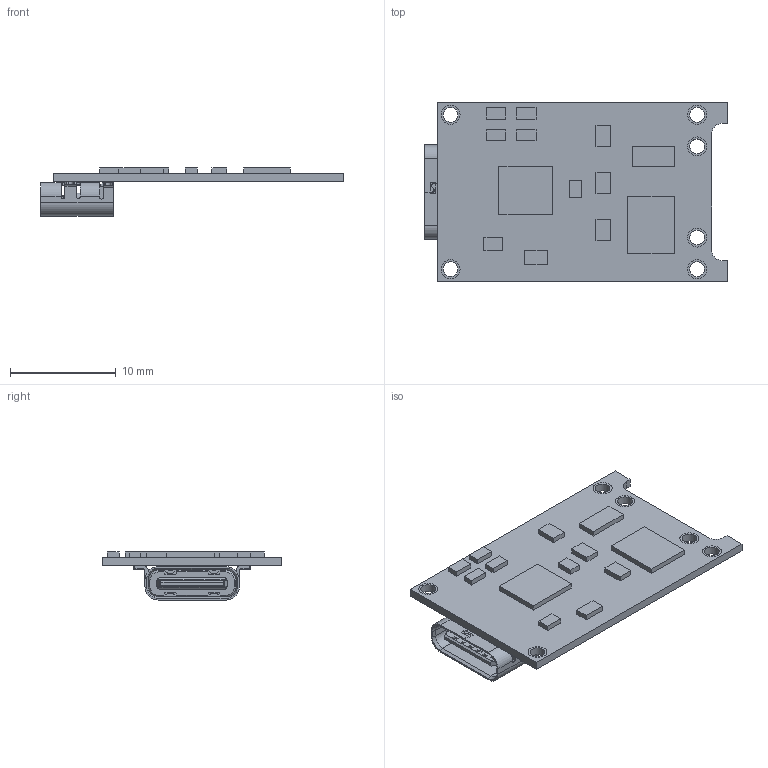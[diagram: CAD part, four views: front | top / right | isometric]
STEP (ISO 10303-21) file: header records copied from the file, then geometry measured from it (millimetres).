
FILE_DESCRIPTION(('FreeCAD Model'),'2;1');
FILE_NAME('Open CASCADE Shape Model','2023-05-06T18:44:57',('Author'),( ''),'Open CASCADE STEP processor 7.5','FreeCAD','Unknown');
FILE_SCHEMA(('AUTOMOTIVE_DESIGN { 1 0 10303 214 1 1 1 1 }'));
Length unit declared in the file: millimetre
Products named in the file (1): dc_dc chargehw-373
Bounding box: 28.7 x 17 x 4.55 mm (x, y, z)
Volume: 483.2 mm3; surface area: 1490.3 mm2
Topology: 3 solids, 3 shells, 877 faces, 2428 edges, 1587 vertices
Faces by surface type: plane 653, cylinder 186, cone 20, torus 12, bspline 6
Full cylindrical faces by diameter (mm): 1.4 x6
Entity records: 36563 total; most frequent: CARTESIAN_POINT 5140, ORIENTED_EDGE 4842, DIRECTION 4556, EDGE_CURVE 2421, VECTOR 1958, LINE 1958, VERTEX_POINT 1587, AXIS2_PLACEMENT_3D 1299
